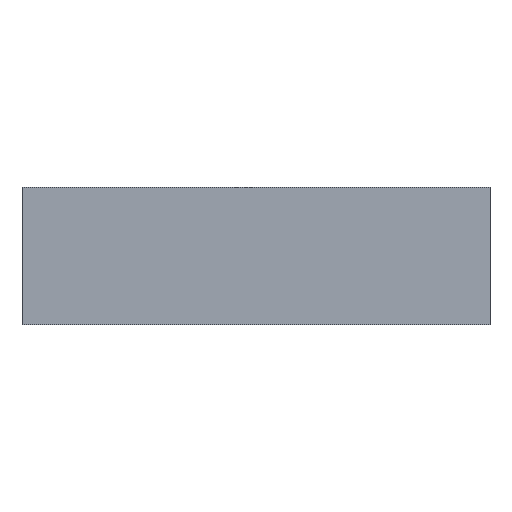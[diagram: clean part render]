
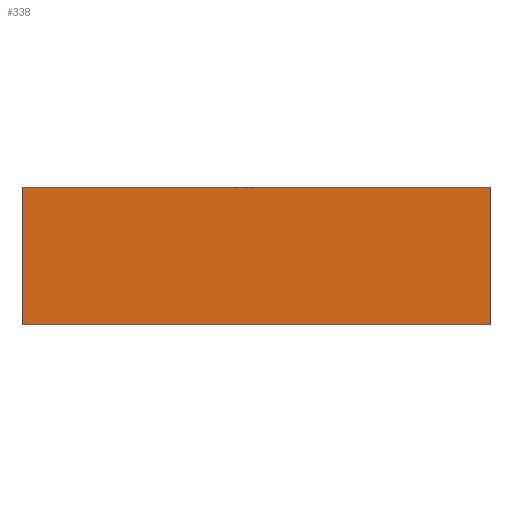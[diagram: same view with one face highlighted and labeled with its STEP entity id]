
A CAD part, top view. The second image highlights one B-rep face of the part: STEP entity #338.
In plain terms, the highlighted planar face has unit normal (0, 0, 1).
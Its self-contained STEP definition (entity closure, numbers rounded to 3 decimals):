
#24 = VERTEX_POINT('',#25);
#25 = CARTESIAN_POINT('',(-850.,-250.,3.));
#32 = PLANE('',#33);
#33 = AXIS2_PLACEMENT_3D('',#34,#35,#36);
#34 = CARTESIAN_POINT('',(-850.,-250.,0.));
#35 = DIRECTION('',(0.,1.,0.));
#36 = DIRECTION('',(1.,0.,0.));
#44 = PLANE('',#45);
#45 = AXIS2_PLACEMENT_3D('',#46,#47,#48);
#46 = CARTESIAN_POINT('',(-850.,250.,0.));
#47 = DIRECTION('',(1.,0.,-0.));
#48 = DIRECTION('',(0.,-1.,0.));
#56 = EDGE_CURVE('',#24,#57,#59,.T.);
#57 = VERTEX_POINT('',#58);
#58 = CARTESIAN_POINT('',(850.,-250.,3.));
#59 = SURFACE_CURVE('',#60,(#64,#71),.PCURVE_S1.);
#60 = LINE('',#61,#62);
#61 = CARTESIAN_POINT('',(-850.,-250.,3.));
#62 = VECTOR('',#63,1.);
#63 = DIRECTION('',(1.,0.,0.));
#64 = PCURVE('',#32,#65);
#65 = DEFINITIONAL_REPRESENTATION('',(#66),#70);
#66 = LINE('',#67,#68);
#67 = CARTESIAN_POINT('',(0.,-3.));
#68 = VECTOR('',#69,1.);
#69 = DIRECTION('',(1.,0.));
#70 = ( GEOMETRIC_REPRESENTATION_CONTEXT(2) 
PARAMETRIC_REPRESENTATION_CONTEXT() REPRESENTATION_CONTEXT('2D SPACE',''
  ) );
#71 = PCURVE('',#72,#77);
#72 = PLANE('',#73);
#73 = AXIS2_PLACEMENT_3D('',#74,#75,#76);
#74 = CARTESIAN_POINT('',(0.,0.,3.));
#75 = DIRECTION('',(0.,0.,1.));
#76 = DIRECTION('',(1.,0.,-0.));
#77 = DEFINITIONAL_REPRESENTATION('',(#78),#82);
#78 = LINE('',#79,#80);
#79 = CARTESIAN_POINT('',(-850.,-250.));
#80 = VECTOR('',#81,1.);
#81 = DIRECTION('',(1.,0.));
#82 = ( GEOMETRIC_REPRESENTATION_CONTEXT(2) 
PARAMETRIC_REPRESENTATION_CONTEXT() REPRESENTATION_CONTEXT('2D SPACE',''
  ) );
#100 = PLANE('',#101);
#101 = AXIS2_PLACEMENT_3D('',#102,#103,#104);
#102 = CARTESIAN_POINT('',(850.,-250.,0.));
#103 = DIRECTION('',(-1.,0.,0.));
#104 = DIRECTION('',(0.,1.,0.));
#142 = EDGE_CURVE('',#57,#143,#145,.T.);
#143 = VERTEX_POINT('',#144);
#144 = CARTESIAN_POINT('',(850.,250.,3.));
#145 = SURFACE_CURVE('',#146,(#150,#157),.PCURVE_S1.);
#146 = LINE('',#147,#148);
#147 = CARTESIAN_POINT('',(850.,-250.,3.));
#148 = VECTOR('',#149,1.);
#149 = DIRECTION('',(0.,1.,0.));
#150 = PCURVE('',#100,#151);
#151 = DEFINITIONAL_REPRESENTATION('',(#152),#156);
#152 = LINE('',#153,#154);
#153 = CARTESIAN_POINT('',(0.,-3.));
#154 = VECTOR('',#155,1.);
#155 = DIRECTION('',(1.,0.));
#156 = ( GEOMETRIC_REPRESENTATION_CONTEXT(2) 
PARAMETRIC_REPRESENTATION_CONTEXT() REPRESENTATION_CONTEXT('2D SPACE',''
  ) );
#157 = PCURVE('',#72,#158);
#158 = DEFINITIONAL_REPRESENTATION('',(#159),#163);
#159 = LINE('',#160,#161);
#160 = CARTESIAN_POINT('',(850.,-250.));
#161 = VECTOR('',#162,1.);
#162 = DIRECTION('',(0.,1.));
#163 = ( GEOMETRIC_REPRESENTATION_CONTEXT(2) 
PARAMETRIC_REPRESENTATION_CONTEXT() REPRESENTATION_CONTEXT('2D SPACE',''
  ) );
#181 = PLANE('',#182);
#182 = AXIS2_PLACEMENT_3D('',#183,#184,#185);
#183 = CARTESIAN_POINT('',(850.,250.,0.));
#184 = DIRECTION('',(0.,-1.,0.));
#185 = DIRECTION('',(-1.,0.,0.));
#218 = EDGE_CURVE('',#143,#219,#221,.T.);
#219 = VERTEX_POINT('',#220);
#220 = CARTESIAN_POINT('',(-850.,250.,3.));
#221 = SURFACE_CURVE('',#222,(#226,#233),.PCURVE_S1.);
#222 = LINE('',#223,#224);
#223 = CARTESIAN_POINT('',(850.,250.,3.));
#224 = VECTOR('',#225,1.);
#225 = DIRECTION('',(-1.,0.,0.));
#226 = PCURVE('',#181,#227);
#227 = DEFINITIONAL_REPRESENTATION('',(#228),#232);
#228 = LINE('',#229,#230);
#229 = CARTESIAN_POINT('',(0.,-3.));
#230 = VECTOR('',#231,1.);
#231 = DIRECTION('',(1.,0.));
#232 = ( GEOMETRIC_REPRESENTATION_CONTEXT(2) 
PARAMETRIC_REPRESENTATION_CONTEXT() REPRESENTATION_CONTEXT('2D SPACE',''
  ) );
#233 = PCURVE('',#72,#234);
#234 = DEFINITIONAL_REPRESENTATION('',(#235),#239);
#235 = LINE('',#236,#237);
#236 = CARTESIAN_POINT('',(850.,250.));
#237 = VECTOR('',#238,1.);
#238 = DIRECTION('',(-1.,0.));
#239 = ( GEOMETRIC_REPRESENTATION_CONTEXT(2) 
PARAMETRIC_REPRESENTATION_CONTEXT() REPRESENTATION_CONTEXT('2D SPACE',''
  ) );
#289 = EDGE_CURVE('',#219,#24,#290,.T.);
#290 = SURFACE_CURVE('',#291,(#295,#302),.PCURVE_S1.);
#291 = LINE('',#292,#293);
#292 = CARTESIAN_POINT('',(-850.,250.,3.));
#293 = VECTOR('',#294,1.);
#294 = DIRECTION('',(0.,-1.,0.));
#295 = PCURVE('',#44,#296);
#296 = DEFINITIONAL_REPRESENTATION('',(#297),#301);
#297 = LINE('',#298,#299);
#298 = CARTESIAN_POINT('',(0.,-3.));
#299 = VECTOR('',#300,1.);
#300 = DIRECTION('',(1.,0.));
#301 = ( GEOMETRIC_REPRESENTATION_CONTEXT(2) 
PARAMETRIC_REPRESENTATION_CONTEXT() REPRESENTATION_CONTEXT('2D SPACE',''
  ) );
#302 = PCURVE('',#72,#303);
#303 = DEFINITIONAL_REPRESENTATION('',(#304),#308);
#304 = LINE('',#305,#306);
#305 = CARTESIAN_POINT('',(-850.,250.));
#306 = VECTOR('',#307,1.);
#307 = DIRECTION('',(0.,-1.));
#308 = ( GEOMETRIC_REPRESENTATION_CONTEXT(2) 
PARAMETRIC_REPRESENTATION_CONTEXT() REPRESENTATION_CONTEXT('2D SPACE',''
  ) );
#338 = ADVANCED_FACE('',(#339),#72,.T.);
#339 = FACE_BOUND('',#340,.T.);
#340 = EDGE_LOOP('',(#341,#342,#343,#344));
#341 = ORIENTED_EDGE('',*,*,#56,.T.);
#342 = ORIENTED_EDGE('',*,*,#142,.T.);
#343 = ORIENTED_EDGE('',*,*,#218,.T.);
#344 = ORIENTED_EDGE('',*,*,#289,.T.);
